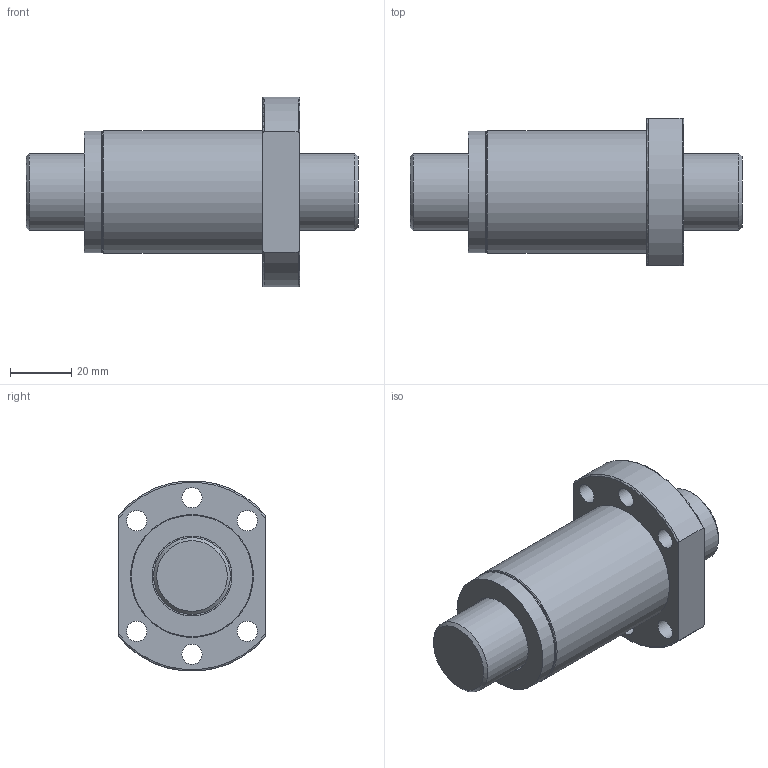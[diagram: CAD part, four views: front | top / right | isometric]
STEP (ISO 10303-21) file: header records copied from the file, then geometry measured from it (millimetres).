
FILE_DESCRIPTION(/* description */ (''),/* implementation_level */ '2;1');
FILE_NAME(/* name */ 'SFS2525-1.8',/* time_stamp */ '2007-10-26T10:59:16+08:00',/* author */ (''),/* organization */ (''),/* preprocessor_version */ 'ST-DEVELOPER v9',/* originating_system */ 'UGS - NX 3.0',/* authorisation */ '');
FILE_SCHEMA (('CONFIG_CONTROL_DESIGN'));
Length unit declared in the file: millimetre
Products named in the file (1): jaso37B0hu7d
Bounding box: 108 x 48 x 61.8 mm (x, y, z)
Volume: 121942.7 mm3; surface area: 34544.8 mm2
Topology: 4 solids, 4 shells, 41 faces, 85 edges, 58 vertices
Faces by surface type: cylinder 18, plane 13, torus 5, bspline 3, cone 2
Full cylindrical faces by diameter (mm): 6.6 x6, 25 x1, 26 x3, 39 x2, 39.5 x3, 40 x1
Entity records: 1248 total; most frequent: CARTESIAN_POINT 358, DIRECTION 168, ORIENTED_EDGE 120, EDGE_LOOP 82, AXIS2_PLACEMENT_3D 80, EDGE_CURVE 60, FACE_BOUND 58, VERTEX_POINT 52
